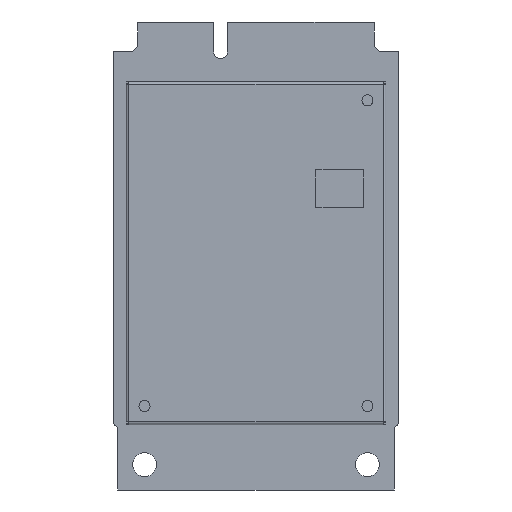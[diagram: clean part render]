
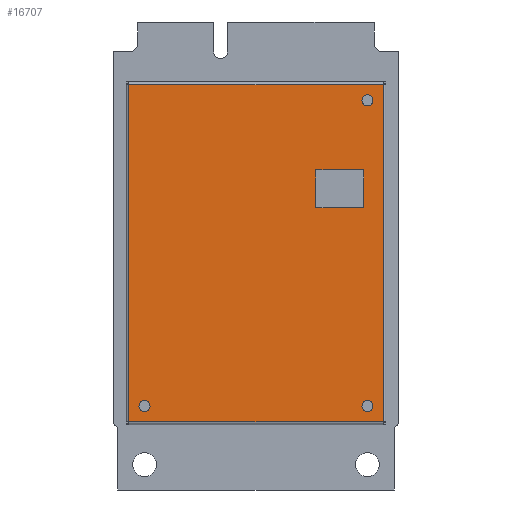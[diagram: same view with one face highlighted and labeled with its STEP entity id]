
A CAD part, front view. The second image highlights one B-rep face of the part: STEP entity #16707.
In plain terms, the highlighted planar face has unit normal (0, -1, 0).
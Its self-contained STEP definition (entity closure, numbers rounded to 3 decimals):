
#14874=DIRECTION('',(-1.,0.,0.));
#14875=VECTOR('',#14874,27.6);
#14876=CARTESIAN_POINT('',(13.8,-1.5,-6.8));
#14877=LINE('',#14876,#14875);
#14881=DIRECTION('',(0.,0.,1.));
#14882=VECTOR('',#14881,36.6);
#14883=CARTESIAN_POINT('',(13.8,-1.5,-43.4));
#14884=LINE('',#14883,#14882);
#14888=DIRECTION('',(1.,0.,0.));
#14889=VECTOR('',#14888,27.6);
#14890=CARTESIAN_POINT('',(-13.8,-1.5,-43.4));
#14891=LINE('',#14890,#14889);
#14895=DIRECTION('',(0.,0.,-1.));
#14896=VECTOR('',#14895,36.6);
#14897=CARTESIAN_POINT('',(-13.8,-1.5,-6.8));
#14898=LINE('',#14897,#14896);
#14902=CARTESIAN_POINT('',(12.1,-1.5,-8.5));
#14903=DIRECTION('',(0.,-1.,0.));
#14904=DIRECTION('',(1.,0.,0.));
#14905=AXIS2_PLACEMENT_3D('',#14902,#14903,#14904);
#14910=CARTESIAN_POINT('',(12.1,-1.5,-8.5));
#14911=DIRECTION('',(0.,-1.,0.));
#14912=DIRECTION('',(-1.,0.,0.));
#14913=AXIS2_PLACEMENT_3D('',#14910,#14911,#14912);
#14918=CARTESIAN_POINT('',(12.1,-1.5,-41.7));
#14919=DIRECTION('',(0.,-1.,0.));
#14920=DIRECTION('',(1.,0.,0.));
#14921=AXIS2_PLACEMENT_3D('',#14918,#14919,#14920);
#14926=CARTESIAN_POINT('',(12.1,-1.5,-41.7));
#14927=DIRECTION('',(0.,-1.,0.));
#14928=DIRECTION('',(-1.,0.,0.));
#14929=AXIS2_PLACEMENT_3D('',#14926,#14927,#14928);
#14934=CARTESIAN_POINT('',(-12.1,-1.5,-41.7));
#14935=DIRECTION('',(0.,-1.,0.));
#14936=DIRECTION('',(1.,0.,0.));
#14937=AXIS2_PLACEMENT_3D('',#14934,#14935,#14936);
#14942=CARTESIAN_POINT('',(-12.1,-1.5,-41.7));
#14943=DIRECTION('',(0.,-1.,0.));
#14944=DIRECTION('',(-1.,0.,0.));
#14945=AXIS2_PLACEMENT_3D('',#14942,#14943,#14944);
#14950=DIRECTION('',(0.,0.,-1.));
#14951=VECTOR('',#14950,4.1);
#14952=CARTESIAN_POINT('',(11.7,-1.5,-16.048));
#14953=LINE('',#14952,#14951);
#14957=DIRECTION('',(1.,0.,0.));
#14958=VECTOR('',#14957,5.2);
#14959=CARTESIAN_POINT('',(6.5,-1.5,-16.048));
#14960=LINE('',#14959,#14958);
#14964=DIRECTION('',(0.,0.,1.));
#14965=VECTOR('',#14964,4.1);
#14966=CARTESIAN_POINT('',(6.5,-1.5,-20.148));
#14967=LINE('',#14966,#14965);
#14971=DIRECTION('',(-1.,0.,0.));
#14972=VECTOR('',#14971,5.2);
#14973=CARTESIAN_POINT('',(11.7,-1.5,-20.148));
#14974=LINE('',#14973,#14972);
#16400=CARTESIAN_POINT('',(13.8,-1.5,-43.4));
#16401=CARTESIAN_POINT('',(13.8,-1.5,-6.8));
#16402=VERTEX_POINT('',#16400);
#16403=VERTEX_POINT('',#16401);
#16404=CARTESIAN_POINT('',(-13.8,-1.5,-43.4));
#16405=VERTEX_POINT('',#16404);
#16406=CARTESIAN_POINT('',(-13.8,-1.5,-6.8));
#16407=VERTEX_POINT('',#16406);
#16560=CARTESIAN_POINT('',(12.7,-1.5,-8.5));
#16561=CARTESIAN_POINT('',(11.5,-1.5,-8.5));
#16562=VERTEX_POINT('',#16560);
#16563=VERTEX_POINT('',#16561);
#16564=CARTESIAN_POINT('',(12.7,-1.5,-41.7));
#16565=CARTESIAN_POINT('',(11.5,-1.5,-41.7));
#16566=VERTEX_POINT('',#16564);
#16567=VERTEX_POINT('',#16565);
#16576=CARTESIAN_POINT('',(11.7,-1.5,-16.048));
#16577=CARTESIAN_POINT('',(11.7,-1.5,-20.148));
#16578=VERTEX_POINT('',#16576);
#16579=VERTEX_POINT('',#16577);
#16580=CARTESIAN_POINT('',(6.5,-1.5,-20.148));
#16581=VERTEX_POINT('',#16580);
#16582=CARTESIAN_POINT('',(6.5,-1.5,-16.048));
#16583=VERTEX_POINT('',#16582);
#16624=CARTESIAN_POINT('',(-11.5,-1.5,-41.7));
#16625=CARTESIAN_POINT('',(-12.7,-1.5,-41.7));
#16626=VERTEX_POINT('',#16624);
#16627=VERTEX_POINT('',#16625);
#16664=CARTESIAN_POINT('',(0.,-1.5,0.));
#16665=DIRECTION('',(0.,-1.,0.));
#16666=DIRECTION('',(-1.,0.,0.));
#16667=AXIS2_PLACEMENT_3D('',#16664,#16665,#16666);
#16668=PLANE('',#16667);
#16670=ORIENTED_EDGE('',*,*,#16669,.F.);
#16672=ORIENTED_EDGE('',*,*,#16671,.F.);
#16674=ORIENTED_EDGE('',*,*,#16673,.F.);
#16676=ORIENTED_EDGE('',*,*,#16675,.F.);
#16677=EDGE_LOOP('',(#16670,#16672,#16674,#16676));
#16678=FACE_OUTER_BOUND('',#16677,.F.);
#16680=ORIENTED_EDGE('',*,*,#16679,.T.);
#16682=ORIENTED_EDGE('',*,*,#16681,.T.);
#16683=EDGE_LOOP('',(#16680,#16682));
#16684=FACE_BOUND('',#16683,.F.);
#16686=ORIENTED_EDGE('',*,*,#16685,.T.);
#16688=ORIENTED_EDGE('',*,*,#16687,.T.);
#16689=EDGE_LOOP('',(#16686,#16688));
#16690=FACE_BOUND('',#16689,.F.);
#16692=ORIENTED_EDGE('',*,*,#16691,.T.);
#16694=ORIENTED_EDGE('',*,*,#16693,.T.);
#16695=EDGE_LOOP('',(#16692,#16694));
#16696=FACE_BOUND('',#16695,.F.);
#16698=ORIENTED_EDGE('',*,*,#16697,.F.);
#16700=ORIENTED_EDGE('',*,*,#16699,.F.);
#16702=ORIENTED_EDGE('',*,*,#16701,.F.);
#16704=ORIENTED_EDGE('',*,*,#16703,.F.);
#16705=EDGE_LOOP('',(#16698,#16700,#16702,#16704));
#16706=FACE_BOUND('',#16705,.F.);
#14906=CIRCLE('',#14905,0.6);
#14914=CIRCLE('',#14913,0.6);
#14922=CIRCLE('',#14921,0.6);
#14930=CIRCLE('',#14929,0.6);
#14938=CIRCLE('',#14937,0.6);
#14946=CIRCLE('',#14945,0.6);
#16669=EDGE_CURVE('',#16403,#16407,#14877,.T.);
#16671=EDGE_CURVE('',#16402,#16403,#14884,.T.);
#16673=EDGE_CURVE('',#16405,#16402,#14891,.T.);
#16675=EDGE_CURVE('',#16407,#16405,#14898,.T.);
#16679=EDGE_CURVE('',#16562,#16563,#14906,.T.);
#16681=EDGE_CURVE('',#16563,#16562,#14914,.T.);
#16685=EDGE_CURVE('',#16566,#16567,#14922,.T.);
#16687=EDGE_CURVE('',#16567,#16566,#14930,.T.);
#16691=EDGE_CURVE('',#16626,#16627,#14938,.T.);
#16693=EDGE_CURVE('',#16627,#16626,#14946,.T.);
#16697=EDGE_CURVE('',#16578,#16579,#14953,.T.);
#16699=EDGE_CURVE('',#16583,#16578,#14960,.T.);
#16701=EDGE_CURVE('',#16581,#16583,#14967,.T.);
#16703=EDGE_CURVE('',#16579,#16581,#14974,.T.);
#16707=ADVANCED_FACE('',(#16678,#16684,#16690,#16696,#16706),#16668,.T.);
